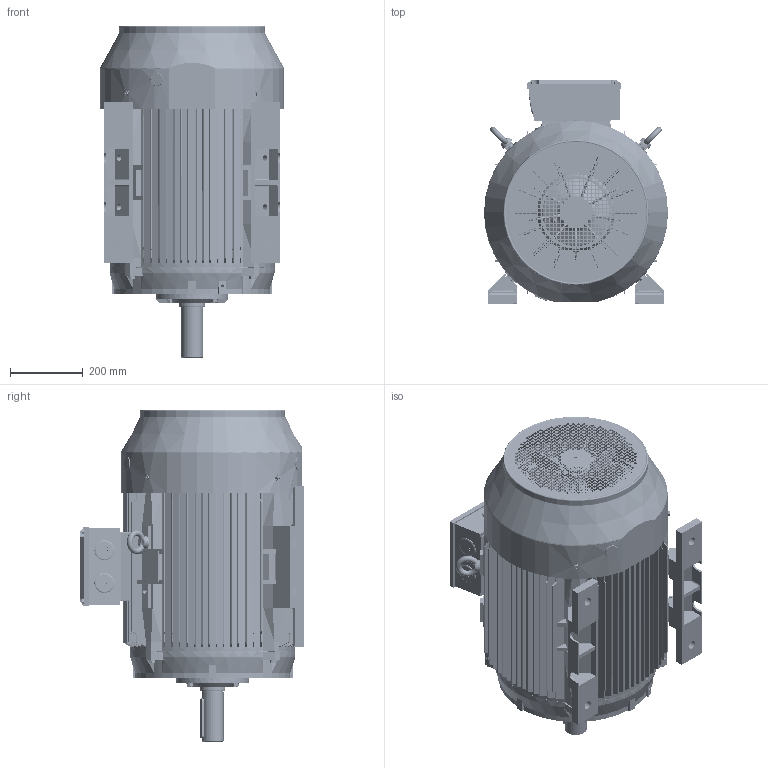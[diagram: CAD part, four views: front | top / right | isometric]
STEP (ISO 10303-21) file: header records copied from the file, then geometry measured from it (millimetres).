
FILE_DESCRIPTION (( 'STEP AP214' ), '1' );
FILE_NAME ('BCT4550.25D203.11.step', '2020-04-23T13:51:21', ( '' ), ( '' ), 'SwSTEP 2.0', 'SolidWorks 2019', '' );
FILE_SCHEMA (( 'AUTOMOTIVE_DESIGN' ));
Length unit declared in the file: millimetre
Products named in the file (1): BCT4550.25D203.11
Bounding box: 506.4 x 614.03 x 913.5 mm (x, y, z)
Volume: 26238503.7 mm3; surface area: 5932957.8 mm2
Topology: 48 solids, 49 shells, 9391 faces, 27244 edges, 17906 vertices
Faces by surface type: plane 4584, cylinder 3837, cone 348, bspline 300, torus 198, sphere 124
Entity records: 344849 total; most frequent: CARTESIAN_POINT 92169, ORIENTED_EDGE 54080, DIRECTION 51533, EDGE_CURVE 27040, VERTEX_POINT 17844, AXIS2_PLACEMENT_3D 17691, LINE 16151, VECTOR 16151
